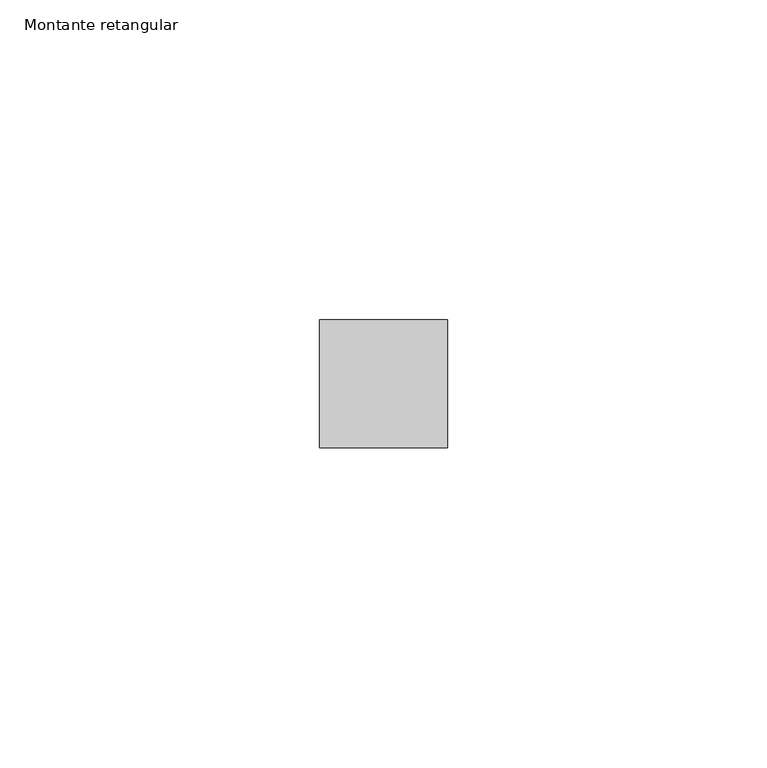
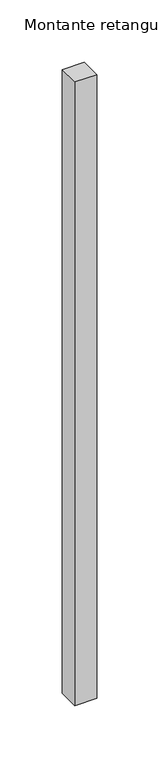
"""IFC4 building model written with IfcOpenShell, lengths in millimetres: member geometry, Montante retangular : ARQ_RIPAS."""

from ifc_helpers import new_model, si_unit, frame, origin, place, context, project, spatial, polyline, outline, extrude, source, transform, mapped, element, save


def montante_retangular_5394629c(model_context):
    return source(origin(), model_context, "Body", "SweptSolid", [
        extrude(outline(polyline([(0.0, 0.0), (0.0, -20.0), (-20.0, -20.0), (-20.0, 0.0), (0.0, 0.0)])), frame((0.0, 0.0, -610.0), z_axis=(0.0, 0.0, 1.0), x_axis=(1.0, 0.0, 0.0)), (0.0, 0.0, 1.0), 610.0),
    ])


if __name__ == "__main__":
    model = new_model("IFC4")
    model_context = context("Model", 3, world=origin())
    ifc_project = project(units=[si_unit("LENGTHUNIT", "METRE", prefix="MILLI")], contexts=[model_context])
    site = spatial("IfcSite", under=ifc_project)
    building = spatial("IfcBuilding", under=site)
    placement = place(None, origin())
    montante_retangular_shape = montante_retangular_5394629c(model_context)
    element("IfcMember", 1, ObjectType="Montante retangular : ARQ_RIPAS", at=placement, inside=building, context=model_context, shape_type="MappedRepresentation", body=[
        mapped(montante_retangular_shape, transform((0.0, 0.0, 0.0), x_axis=(1.0, 0.0, 0.0), y_axis=(0.0, 1.0, 0.0), z_axis=(0.0, 0.0, 1.0))),
    ])
    save(model, "model.ifc")
